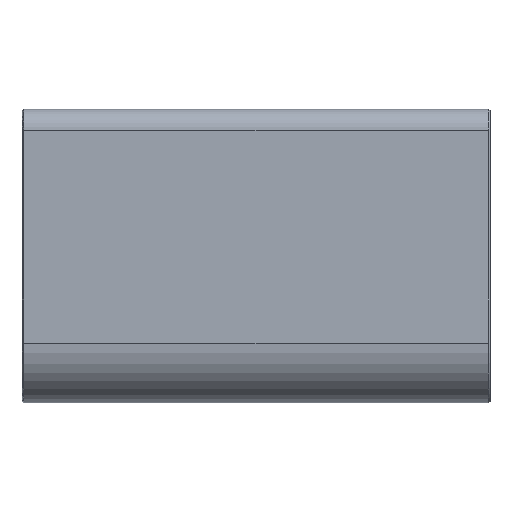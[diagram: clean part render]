
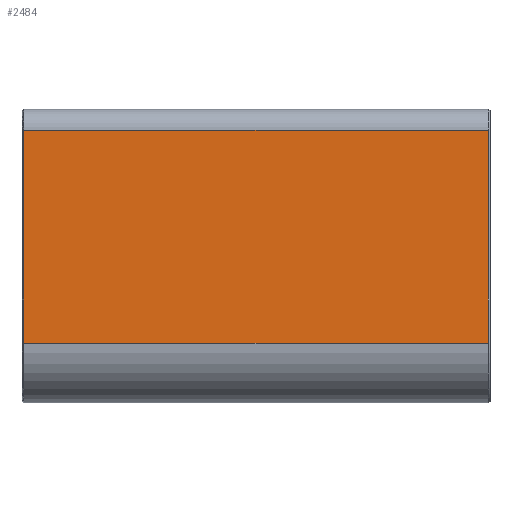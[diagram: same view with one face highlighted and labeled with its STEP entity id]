
A CAD part, top view. The second image highlights one B-rep face of the part: STEP entity #2484.
In plain terms, the highlighted planar face has unit normal (0, 0, 1).
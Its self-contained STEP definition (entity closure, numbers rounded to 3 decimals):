
#1119 = PLANE('',#1120);
#1120 = AXIS2_PLACEMENT_3D('',#1121,#1122,#1123);
#1121 = CARTESIAN_POINT('',(-27.4,-25.5,1.9));
#1122 = DIRECTION('',(0.707,0.,-0.707
    ));
#1123 = DIRECTION('',(0.,-1.,0.));
#1434 = PLANE('',#1435);
#1435 = AXIS2_PLACEMENT_3D('',#1436,#1437,#1438);
#1436 = CARTESIAN_POINT('',(27.4,-25.5,1.9));
#1437 = DIRECTION('',(0.707,0.,0.707)
  );
#1438 = DIRECTION('',(0.,-1.,0.));
#1568 = CYLINDRICAL_SURFACE('',#1569,2.5);
#1569 = AXIS2_PLACEMENT_3D('',#1570,#1571,#1572);
#1570 = CARTESIAN_POINT('',(-27.5,-0.5,-0.5));
#1571 = DIRECTION('',(-1.,-0.,0.));
#1572 = DIRECTION('',(0.,1.,0.));
#1783 = VERTEX_POINT('',#1784);
#1784 = CARTESIAN_POINT('',(-27.3,-25.5,2.));
#1799 = CYLINDRICAL_SURFACE('',#1800,7.);
#1800 = AXIS2_PLACEMENT_3D('',#1801,#1802,#1803);
#1801 = CARTESIAN_POINT('',(-27.5,-25.5,-5.));
#1802 = DIRECTION('',(-1.,0.,0.));
#1803 = DIRECTION('',(0.,0.,1.));
#1893 = EDGE_CURVE('',#1783,#1894,#1896,.T.);
#1894 = VERTEX_POINT('',#1895);
#1895 = CARTESIAN_POINT('',(-27.3,-0.5,2.));
#1896 = SURFACE_CURVE('',#1897,(#1901,#1908),.PCURVE_S1.);
#1897 = LINE('',#1898,#1899);
#1898 = CARTESIAN_POINT('',(-27.3,-25.5,2.));
#1899 = VECTOR('',#1900,1.);
#1900 = DIRECTION('',(0.,1.,0.));
#1901 = PCURVE('',#1119,#1902);
#1902 = DEFINITIONAL_REPRESENTATION('',(#1903),#1907);
#1903 = LINE('',#1904,#1905);
#1904 = CARTESIAN_POINT('',(-0.,-0.141));
#1905 = VECTOR('',#1906,1.);
#1906 = DIRECTION('',(-1.,0.));
#1907 = ( GEOMETRIC_REPRESENTATION_CONTEXT(2) 
PARAMETRIC_REPRESENTATION_CONTEXT() REPRESENTATION_CONTEXT('2D SPACE',''
  ) );
#1908 = PCURVE('',#1909,#1914);
#1909 = PLANE('',#1910);
#1910 = AXIS2_PLACEMENT_3D('',#1911,#1912,#1913);
#1911 = CARTESIAN_POINT('',(-27.5,-25.5,2.));
#1912 = DIRECTION('',(0.,0.,1.));
#1913 = DIRECTION('',(0.,1.,0.));
#1914 = DEFINITIONAL_REPRESENTATION('',(#1915),#1919);
#1915 = LINE('',#1916,#1917);
#1916 = CARTESIAN_POINT('',(0.,-0.2));
#1917 = VECTOR('',#1918,1.);
#1918 = DIRECTION('',(1.,0.));
#1919 = ( GEOMETRIC_REPRESENTATION_CONTEXT(2) 
PARAMETRIC_REPRESENTATION_CONTEXT() REPRESENTATION_CONTEXT('2D SPACE',''
  ) );
#2103 = VERTEX_POINT('',#2104);
#2104 = CARTESIAN_POINT('',(27.3,-25.5,2.));
#2203 = EDGE_CURVE('',#2103,#2204,#2206,.T.);
#2204 = VERTEX_POINT('',#2205);
#2205 = CARTESIAN_POINT('',(27.3,-0.5,2.));
#2206 = SURFACE_CURVE('',#2207,(#2211,#2218),.PCURVE_S1.);
#2207 = LINE('',#2208,#2209);
#2208 = CARTESIAN_POINT('',(27.3,-25.5,2.));
#2209 = VECTOR('',#2210,1.);
#2210 = DIRECTION('',(0.,1.,0.));
#2211 = PCURVE('',#1434,#2212);
#2212 = DEFINITIONAL_REPRESENTATION('',(#2213),#2217);
#2213 = LINE('',#2214,#2215);
#2214 = CARTESIAN_POINT('',(-0.,-0.141));
#2215 = VECTOR('',#2216,1.);
#2216 = DIRECTION('',(-1.,0.));
#2217 = ( GEOMETRIC_REPRESENTATION_CONTEXT(2) 
PARAMETRIC_REPRESENTATION_CONTEXT() REPRESENTATION_CONTEXT('2D SPACE',''
  ) );
#2218 = PCURVE('',#1909,#2219);
#2219 = DEFINITIONAL_REPRESENTATION('',(#2220),#2224);
#2220 = LINE('',#2221,#2222);
#2221 = CARTESIAN_POINT('',(0.,-54.8));
#2222 = VECTOR('',#2223,1.);
#2223 = DIRECTION('',(1.,0.));
#2224 = ( GEOMETRIC_REPRESENTATION_CONTEXT(2) 
PARAMETRIC_REPRESENTATION_CONTEXT() REPRESENTATION_CONTEXT('2D SPACE',''
  ) );
#2409 = EDGE_CURVE('',#1894,#2204,#2410,.T.);
#2410 = SURFACE_CURVE('',#2411,(#2415,#2422),.PCURVE_S1.);
#2411 = LINE('',#2412,#2413);
#2412 = CARTESIAN_POINT('',(-27.5,-0.5,2.));
#2413 = VECTOR('',#2414,1.);
#2414 = DIRECTION('',(1.,0.,0.));
#2415 = PCURVE('',#1568,#2416);
#2416 = DEFINITIONAL_REPRESENTATION('',(#2417),#2421);
#2417 = LINE('',#2418,#2419);
#2418 = CARTESIAN_POINT('',(-1.571,0.));
#2419 = VECTOR('',#2420,1.);
#2420 = DIRECTION('',(-0.,-1.));
#2421 = ( GEOMETRIC_REPRESENTATION_CONTEXT(2) 
PARAMETRIC_REPRESENTATION_CONTEXT() REPRESENTATION_CONTEXT('2D SPACE',''
  ) );
#2422 = PCURVE('',#1909,#2423);
#2423 = DEFINITIONAL_REPRESENTATION('',(#2424),#2428);
#2424 = LINE('',#2425,#2426);
#2425 = CARTESIAN_POINT('',(25.,0.));
#2426 = VECTOR('',#2427,1.);
#2427 = DIRECTION('',(0.,-1.));
#2428 = ( GEOMETRIC_REPRESENTATION_CONTEXT(2) 
PARAMETRIC_REPRESENTATION_CONTEXT() REPRESENTATION_CONTEXT('2D SPACE',''
  ) );
#2434 = EDGE_CURVE('',#1783,#2103,#2435,.T.);
#2435 = SURFACE_CURVE('',#2436,(#2440,#2447),.PCURVE_S1.);
#2436 = LINE('',#2437,#2438);
#2437 = CARTESIAN_POINT('',(-27.5,-25.5,2.));
#2438 = VECTOR('',#2439,1.);
#2439 = DIRECTION('',(1.,0.,0.));
#2440 = PCURVE('',#1799,#2441);
#2441 = DEFINITIONAL_REPRESENTATION('',(#2442),#2446);
#2442 = LINE('',#2443,#2444);
#2443 = CARTESIAN_POINT('',(-0.,0.));
#2444 = VECTOR('',#2445,1.);
#2445 = DIRECTION('',(-0.,-1.));
#2446 = ( GEOMETRIC_REPRESENTATION_CONTEXT(2) 
PARAMETRIC_REPRESENTATION_CONTEXT() REPRESENTATION_CONTEXT('2D SPACE',''
  ) );
#2447 = PCURVE('',#1909,#2448);
#2448 = DEFINITIONAL_REPRESENTATION('',(#2449),#2453);
#2449 = LINE('',#2450,#2451);
#2450 = CARTESIAN_POINT('',(0.,0.));
#2451 = VECTOR('',#2452,1.);
#2452 = DIRECTION('',(0.,-1.));
#2453 = ( GEOMETRIC_REPRESENTATION_CONTEXT(2) 
PARAMETRIC_REPRESENTATION_CONTEXT() REPRESENTATION_CONTEXT('2D SPACE',''
  ) );
#2484 = ADVANCED_FACE('',(#2485),#1909,.T.);
#2485 = FACE_BOUND('',#2486,.T.);
#2486 = EDGE_LOOP('',(#2487,#2488,#2489,#2490));
#2487 = ORIENTED_EDGE('',*,*,#2434,.T.);
#2488 = ORIENTED_EDGE('',*,*,#2203,.T.);
#2489 = ORIENTED_EDGE('',*,*,#2409,.F.);
#2490 = ORIENTED_EDGE('',*,*,#1893,.F.);
